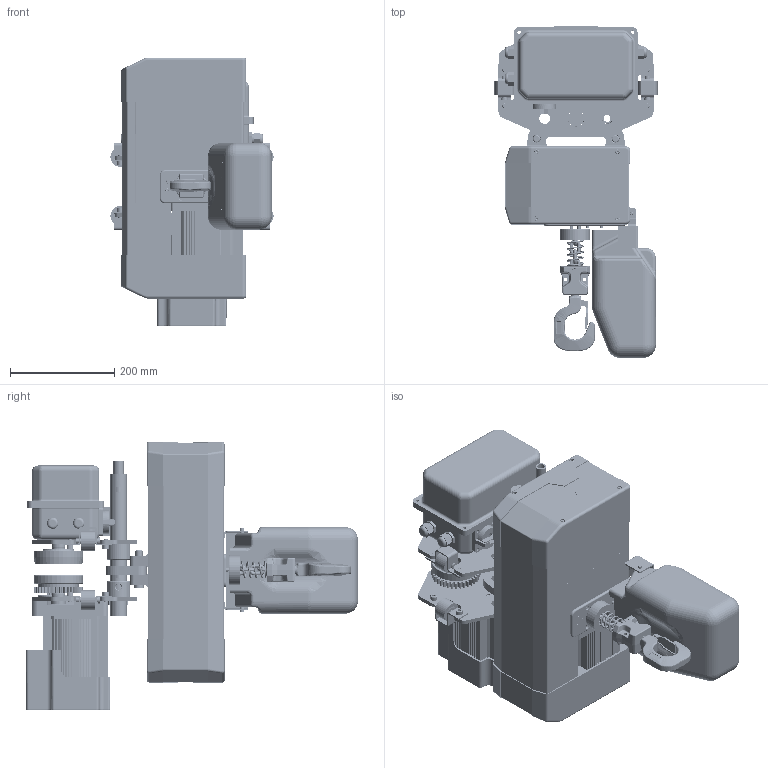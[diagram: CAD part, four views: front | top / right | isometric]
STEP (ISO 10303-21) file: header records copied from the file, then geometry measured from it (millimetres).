
FILE_DESCRIPTION(/* description */ ('CAx-IF Rec.Pracs.---Representation and Presentation of Product Manufacturing Information (PMI)---4.0---2014-10-13','CAx-IF Rec.Pracs.---3D Tessellated Geometry---0.4---2014-09-14','2;1'),/* implementation_level */ '2;1');
FILE_NAME(/* name */ 'YJ 0.5-01 运行式',/* time_stamp */ '2026-06-03T10:14:38+08:00',/* author */ (''),/* organization */ (''),/* preprocessor_version */ 'ST-DEVELOPER v16.7',/* originating_system */ $,/* authorisation */ $);
FILE_SCHEMA (('AP242_MANAGED_MODEL_BASED_3D_ENGINEERING_MIM_LF { 1 0 10303 442 20130219 1 4 }'));
Products named in the file (1): YJ 0.5-01 运行式
Bounding box: 312.9 x 636.73 x 515.5 mm (x, y, z)
Volume: 17151380 mm3; surface area: 2266794.5 mm2
Topology: 22 solids, 41 shells, 6108 faces, 15327 edges, 9451 vertices
Faces by surface type: plane 2413, cylinder 1623, bspline 1305, torus 334, cone 323, sphere 110
Full cylindrical faces by diameter (mm): 1.467 x1, 1.707 x1, 2.14 x1, 4 x2, 4.2 x4, 4.5 x4, 4.826 x4, 5 x2, 5.326 x2, 5.795 x6, 5.8 x2, 6 x6, 6.2 x3, 6.3 x4, 6.4 x4, 6.5 x2, 6.6 x8, 6.8 x8, 7 x2, 7.46 x1, 7.76 x12, 8.5 x4, 8.9 x8, 9 x5, 9.045 x2, 9.732 x12, 9.9 x8, 10 x6, 10.2 x8, 10.5 x4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
Entity records: 209558 total; most frequent: CARTESIAN_POINT 73839, ORIENTED_EDGE 29004, DIRECTION 25309, EDGE_CURVE 14502, VERTEX_POINT 9244, AXIS2_PLACEMENT_3D 8962, LINE 7401, VECTOR 7401
